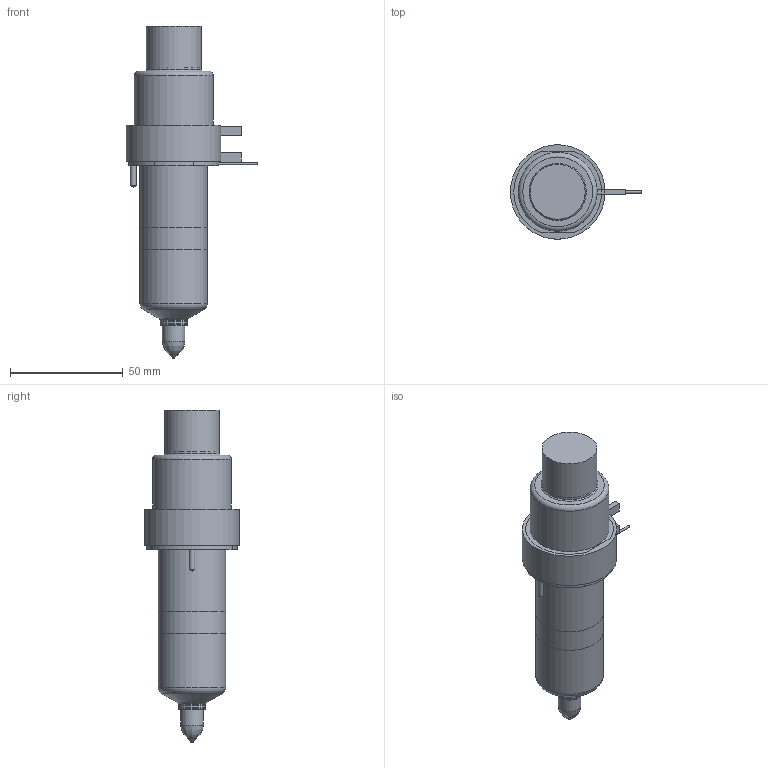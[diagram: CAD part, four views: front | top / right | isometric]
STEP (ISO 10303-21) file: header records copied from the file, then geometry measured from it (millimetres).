
FILE_DESCRIPTION(/* description */ (''),/* implementation_level */ '2;1');
FILE_NAME(/* name */ 'SXTT-SXIT16075-10_250C_b',/* time_stamp */ '2007-01-24T17:35:41+13:00',/* author */ (''),/* organization */ (''),/* preprocessor_version */ 'ST-DEVELOPER v9',/* originating_system */ 'UGS - NX 4.0',/* authorisation */ '');
FILE_SCHEMA (('CONFIG_CONTROL_DESIGN'));
Length unit declared in the file: millimetre
Products named in the file (1): SXTT-SXIT16075-10_250C_b
Bounding box: 58.25 x 42 x 147.48 mm (x, y, z)
Volume: 185060.6 mm3; surface area: 32254.4 mm2
Topology: 7 solids, 7 shells, 99 faces, 192 edges, 121 vertices
Faces by surface type: plane 45, cylinder 30, cone 12, torus 10, bspline 2
Full cylindrical faces by diameter (mm): 1 x4, 2.5 x2, 6.5 x1, 7 x1, 10 x1, 11.61 x1, 12.01 x2, 14.8 x1, 24 x1, 24.4 x1, 25.4 x1, 30 x2, 31.8 x1, 35 x1, 40 x1, 42 x1
Entity records: 2413 total; most frequent: CARTESIAN_POINT 486, DIRECTION 408, ORIENTED_EDGE 282, AXIS2_PLACEMENT_3D 179, EDGE_LOOP 156, EDGE_CURVE 141, VERTEX_POINT 114, ADVANCED_FACE 99
